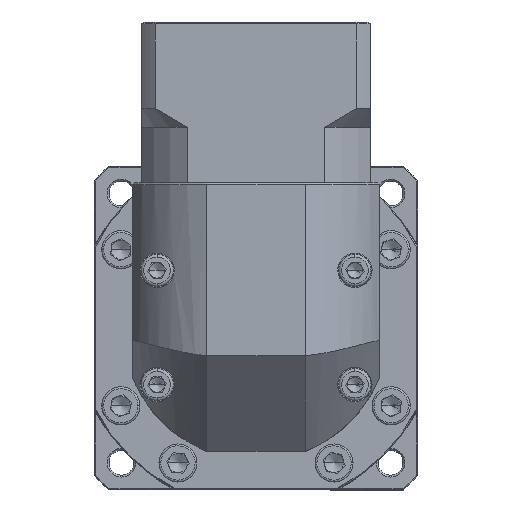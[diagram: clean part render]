
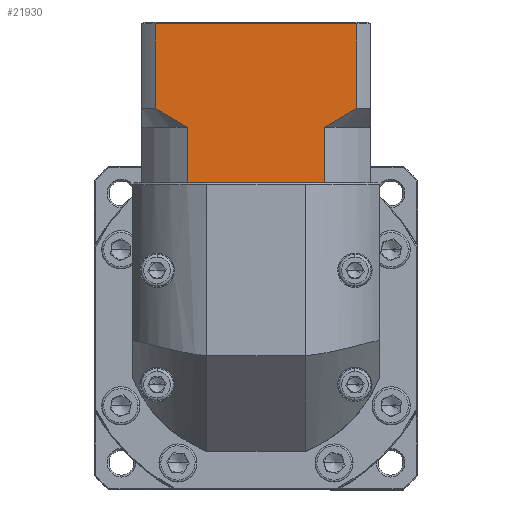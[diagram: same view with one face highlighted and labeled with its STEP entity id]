
A CAD part, top view. The second image highlights one B-rep face of the part: STEP entity #21930.
In plain terms, the highlighted planar face has unit normal (0, 0, 1).
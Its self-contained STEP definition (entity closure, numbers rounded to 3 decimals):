
#529 = ORIENTED_EDGE ( 'NONE', *, *, #92539, .F. ) ;
#1548 = EDGE_CURVE ( 'NONE', #102712, #104413, #83153, .T. ) ;
#1594 = EDGE_CURVE ( 'NONE', #86836, #106655, #99517, .T. ) ;
#2540 = CARTESIAN_POINT ( 'NONE',  ( -109.281, 74.389, 46.3 ) ) ;
#5123 = VECTOR ( 'NONE', #18257, 1000. ) ;
#6256 = VECTOR ( 'NONE', #76251, 1000. ) ;
#10092 = LINE ( 'NONE', #29359, #108213 ) ;
#12897 = EDGE_CURVE ( 'NONE', #83432, #104413, #12914, .T. ) ;
#12914 = LINE ( 'NONE', #47021, #5123 ) ;
#14054 = LINE ( 'NONE', #106356, #6256 ) ;
#14076 = VERTEX_POINT ( 'NONE', #89347 ) ;
#16632 = VERTEX_POINT ( 'NONE', #127453 ) ;
#16751 = EDGE_CURVE ( 'NONE', #86836, #45789, #46720, .T. ) ;
#18257 = DIRECTION ( 'NONE',  ( 0., 1., 0. ) ) ;
#18950 = ORIENTED_EDGE ( 'NONE', *, *, #1548, .T. ) ;
#19875 = DIRECTION ( 'NONE',  ( 0., 0., -1. ) ) ;
#21930 = ADVANCED_FACE ( 'NONE', ( #60310 ), #119817, .F. ) ;
#22449 = CARTESIAN_POINT ( 'NONE',  ( -64.796, 69.389, 46.3 ) ) ;
#26246 = VECTOR ( 'NONE', #41925, 1000. ) ;
#29359 = CARTESIAN_POINT ( 'NONE',  ( -112.823, 54.889, 46.3 ) ) ;
#33041 = CARTESIAN_POINT ( 'NONE',  ( -64.796, 54.889, 46.3 ) ) ;
#33287 = ORIENTED_EDGE ( 'NONE', *, *, #69530, .T. ) ;
#35356 = CARTESIAN_POINT ( 'NONE',  ( -112.823, 54.889, 46.3 ) ) ;
#36213 = CARTESIAN_POINT ( 'NONE',  ( -56.366, 74.389, 46.3 ) ) ;
#36729 = CARTESIAN_POINT ( 'NONE',  ( -100.851, 69.389, 46.3 ) ) ;
#41925 = DIRECTION ( 'NONE',  ( -1., 0., 0. ) ) ;
#43546 = CARTESIAN_POINT ( 'NONE',  ( -100.851, 69.389, 46.3 ) ) ;
#45789 = VERTEX_POINT ( 'NONE', #33041 ) ;
#46720 = LINE ( 'NONE', #130957, #108398 ) ;
#47021 = CARTESIAN_POINT ( 'NONE',  ( -109.281, 69.389, 46.3 ) ) ;
#48646 = LINE ( 'NONE', #108075, #66049 ) ;
#50503 = DIRECTION ( 'NONE',  ( 1., 0., 0. ) ) ;
#52771 = ORIENTED_EDGE ( 'NONE', *, *, #1594, .T. ) ;
#52994 = CARTESIAN_POINT ( 'NONE',  ( -59.108, 72.614, 46.3 ) ) ;
#53262 = EDGE_CURVE ( 'NONE', #83432, #70834, #62953, .T. ) ;
#58414 = CARTESIAN_POINT ( 'NONE',  ( -109.281, 74.389, 46.3 ) ) ;
#60310 = FACE_OUTER_BOUND ( 'NONE', #69717, .T. ) ;
#61435 = DIRECTION ( 'NONE',  ( 0., -1., 0. ) ) ;
#62953 = B_SPLINE_CURVE_WITH_KNOTS ( 'NONE', 3,
 ( #2540, #63478, #82913, #93109, #107064, #36729 ),
 .UNSPECIFIED., .F., .F.,
 ( 4, 2, 4 ),
 ( 0.052, 0.057, 0.062 ),
 .UNSPECIFIED. ) ;
#63478 = CARTESIAN_POINT ( 'NONE',  ( -107.921, 73.49, 46.3 ) ) ;
#63540 = CARTESIAN_POINT ( 'NONE',  ( -61.914, 70.94, 46.3 ) ) ;
#65133 = CARTESIAN_POINT ( 'NONE',  ( -56.366, 96.589, 46.3 ) ) ;
#66049 = VECTOR ( 'NONE', #87721, 1000. ) ;
#69530 = EDGE_CURVE ( 'NONE', #16632, #14076, #10092, .T. ) ;
#69717 = EDGE_LOOP ( 'NONE', ( #114819, #18950, #126166, #117429, #529, #33287, #97507, #113651, #103604, #52771 ) ) ;
#70277 = CARTESIAN_POINT ( 'NONE',  ( -112.823, 97.089, 46.3 ) ) ;
#70369 = CARTESIAN_POINT ( 'NONE',  ( -64.796, 69.389, 46.3 ) ) ;
#70640 = CARTESIAN_POINT ( 'NONE',  ( -112.823, 96.589, 46.3 ) ) ;
#70834 = VERTEX_POINT ( 'NONE', #43546 ) ;
#72151 = VECTOR ( 'NONE', #91427, 1000. ) ;
#75407 = VECTOR ( 'NONE', #116303, 1000. ) ;
#76251 = DIRECTION ( 'NONE',  ( 1., 0., 0. ) ) ;
#80086 = EDGE_CURVE ( 'NONE', #14076, #93179, #14054, .T. ) ;
#82913 = CARTESIAN_POINT ( 'NONE',  ( -106.542, 72.616, 46.3 ) ) ;
#83153 = LINE ( 'NONE', #70640, #26246 ) ;
#83401 = CARTESIAN_POINT ( 'NONE',  ( -63.339, 70.139, 46.3 ) ) ;
#83432 = VERTEX_POINT ( 'NONE', #58414 ) ;
#84305 = CARTESIAN_POINT ( 'NONE',  ( -57.729, 73.488, 46.3 ) ) ;
#86836 = VERTEX_POINT ( 'NONE', #70369 ) ;
#87066 = EDGE_CURVE ( 'NONE', #93179, #45789, #129271, .T. ) ;
#87245 = EDGE_CURVE ( 'NONE', #102712, #106655, #99002, .T. ) ;
#87721 = DIRECTION ( 'NONE',  ( 0., 1., 0. ) ) ;
#87872 = AXIS2_PLACEMENT_3D ( 'NONE', #70277, #19875, #110982 ) ;
#89347 = CARTESIAN_POINT ( 'NONE',  ( -99.86, 54.889, 46.3 ) ) ;
#91427 = DIRECTION ( 'NONE',  ( 0., -1., 0. ) ) ;
#92539 = EDGE_CURVE ( 'NONE', #16632, #70834, #48646, .T. ) ;
#93109 = CARTESIAN_POINT ( 'NONE',  ( -103.735, 70.941, 46.3 ) ) ;
#93179 = VERTEX_POINT ( 'NONE', #107831 ) ;
#97507 = ORIENTED_EDGE ( 'NONE', *, *, #80086, .T. ) ;
#98809 = CARTESIAN_POINT ( 'NONE',  ( -109.281, 96.589, 46.3 ) ) ;
#99002 = LINE ( 'NONE', #112268, #72151 ) ;
#99517 = B_SPLINE_CURVE_WITH_KNOTS ( 'NONE', 3,
 ( #22449, #83401, #63540, #52994, #84305, #123686 ),
 .UNSPECIFIED., .F., .F.,
 ( 4, 2, 4 ),
 ( 0.1, 0.104, 0.109 ),
 .UNSPECIFIED. ) ;
#102712 = VERTEX_POINT ( 'NONE', #65133 ) ;
#103604 = ORIENTED_EDGE ( 'NONE', *, *, #16751, .F. ) ;
#104413 = VERTEX_POINT ( 'NONE', #98809 ) ;
#106356 = CARTESIAN_POINT ( 'NONE',  ( -112.823, 54.889, 46.3 ) ) ;
#106655 = VERTEX_POINT ( 'NONE', #36213 ) ;
#107064 = CARTESIAN_POINT ( 'NONE',  ( -102.303, 70.137, 46.3 ) ) ;
#107831 = CARTESIAN_POINT ( 'NONE',  ( -65.787, 54.889, 46.3 ) ) ;
#108075 = CARTESIAN_POINT ( 'NONE',  ( -100.851, 69.389, 46.3 ) ) ;
#108213 = VECTOR ( 'NONE', #50503, 1000. ) ;
#108398 = VECTOR ( 'NONE', #61435, 1000. ) ;
#110982 = DIRECTION ( 'NONE',  ( 0., 1., 0. ) ) ;
#112268 = CARTESIAN_POINT ( 'NONE',  ( -56.366, 69.389, 46.3 ) ) ;
#113651 = ORIENTED_EDGE ( 'NONE', *, *, #87066, .T. ) ;
#114819 = ORIENTED_EDGE ( 'NONE', *, *, #87245, .F. ) ;
#116303 = DIRECTION ( 'NONE',  ( 1., 0., 0. ) ) ;
#117429 = ORIENTED_EDGE ( 'NONE', *, *, #53262, .T. ) ;
#119817 = PLANE ( 'NONE',  #87872 ) ;
#123686 = CARTESIAN_POINT ( 'NONE',  ( -56.366, 74.389, 46.3 ) ) ;
#126166 = ORIENTED_EDGE ( 'NONE', *, *, #12897, .F. ) ;
#127453 = CARTESIAN_POINT ( 'NONE',  ( -100.851, 54.889, 46.3 ) ) ;
#129271 = LINE ( 'NONE', #35356, #75407 ) ;
#130957 = CARTESIAN_POINT ( 'NONE',  ( -64.796, 69.389, 46.3 ) ) ;
